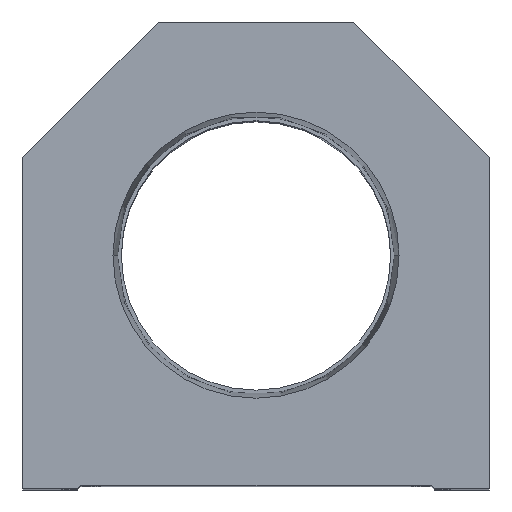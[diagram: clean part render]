
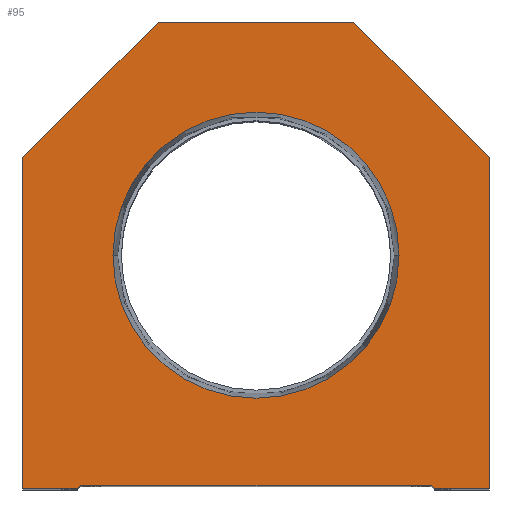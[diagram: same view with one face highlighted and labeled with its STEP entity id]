
A CAD part, top view. The second image highlights one B-rep face of the part: STEP entity #95.
In plain terms, the highlighted planar face has unit normal (0, 0, 1).
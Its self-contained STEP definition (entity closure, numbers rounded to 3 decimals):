
#7 = VERTEX_POINT ( 'NONE', #3540 ) ;
#95 = ADVANCED_FACE ( 'NONE', ( #6256, #10197 ), #1280, .T. ) ;
#268 = CARTESIAN_POINT ( 'NONE',  ( -38.1, 54.1, 0. ) ) ;
#287 = CARTESIAN_POINT ( 'NONE',  ( 16., 76.2, 0. ) ) ;
#294 = VECTOR ( 'NONE', #15739, 1000. ) ;
#474 = EDGE_CURVE ( 'NONE', #10220, #6233, #9113, .T. ) ;
#484 = VERTEX_POINT ( 'NONE', #10239 ) ;
#698 = LINE ( 'NONE', #3573, #7650 ) ;
#907 = VERTEX_POINT ( 'NONE', #7659 ) ;
#1144 = ORIENTED_EDGE ( 'NONE', *, *, #11017, .T. ) ;
#1205 = LINE ( 'NONE', #5109, #7613 ) ;
#1280 = PLANE ( 'NONE',  #7372 ) ;
#1493 = CARTESIAN_POINT ( 'NONE',  ( 38.1, 54.1, 0. ) ) ;
#1592 = EDGE_CURVE ( 'NONE', #10402, #7771, #1205, .T. ) ;
#1690 = VECTOR ( 'NONE', #5219, 1000. ) ;
#1714 = ORIENTED_EDGE ( 'NONE', *, *, #1592, .T. ) ;
#1932 = ORIENTED_EDGE ( 'NONE', *, *, #10981, .T. ) ;
#1982 = LINE ( 'NONE', #9539, #4718 ) ;
#2598 = VERTEX_POINT ( 'NONE', #2801 ) ;
#2799 = EDGE_LOOP ( 'NONE', ( #11271, #1932, #6716, #1714, #5527, #15427, #6569, #1144, #6384, #14672 ) ) ;
#2801 = CARTESIAN_POINT ( 'NONE',  ( 38.1, 0., 0. ) ) ;
#3036 = DIRECTION ( 'NONE',  ( 1., 0., 0. ) ) ;
#3049 = CARTESIAN_POINT ( 'NONE',  ( 38.1, 0., 0. ) ) ;
#3194 = EDGE_CURVE ( 'NONE', #12565, #15673, #12524, .T. ) ;
#3489 = VECTOR ( 'NONE', #4265, 1000. ) ;
#3540 = CARTESIAN_POINT ( 'NONE',  ( 23.374, 38.1, 0. ) ) ;
#3573 = CARTESIAN_POINT ( 'NONE',  ( 16., 76.2, 0. ) ) ;
#3608 = DIRECTION ( 'NONE',  ( 1., 0., 0. ) ) ;
#4039 = DIRECTION ( 'NONE',  ( 0.707, 0.707, 0. ) ) ;
#4205 = DIRECTION ( 'NONE',  ( 0., 0., 1. ) ) ;
#4265 = DIRECTION ( 'NONE',  ( -0.707, 0.707, 0. ) ) ;
#4270 = ORIENTED_EDGE ( 'NONE', *, *, #8967, .F. ) ;
#4365 = EDGE_CURVE ( 'NONE', #8679, #14711, #9383, .T. ) ;
#4718 = VECTOR ( 'NONE', #10745, 1000. ) ;
#4846 = LINE ( 'NONE', #9709, #15119 ) ;
#4959 = EDGE_CURVE ( 'NONE', #484, #7, #12194, .T. ) ;
#5084 = AXIS2_PLACEMENT_3D ( 'NONE', #14267, #4205, #3036 ) ;
#5096 = DIRECTION ( 'NONE',  ( 1., 0., 0. ) ) ;
#5109 = CARTESIAN_POINT ( 'NONE',  ( 14.55, 14.55, 0. ) ) ;
#5179 = CARTESIAN_POINT ( 'NONE',  ( -28.6, 0., 0. ) ) ;
#5219 = DIRECTION ( 'NONE',  ( -0.707, -0.707, 0. ) ) ;
#5342 = LINE ( 'NONE', #13168, #12931 ) ;
#5368 = EDGE_LOOP ( 'NONE', ( #4270, #14618 ) ) ;
#5477 = CIRCLE ( 'NONE', #14689, 23.374 ) ;
#5527 = ORIENTED_EDGE ( 'NONE', *, *, #7483, .T. ) ;
#6211 = DIRECTION ( 'NONE',  ( -1., 0., 0. ) ) ;
#6233 = VERTEX_POINT ( 'NONE', #11521 ) ;
#6256 = FACE_BOUND ( 'NONE', #5368, .T. ) ;
#6384 = ORIENTED_EDGE ( 'NONE', *, *, #474, .T. ) ;
#6569 = ORIENTED_EDGE ( 'NONE', *, *, #4365, .T. ) ;
#6581 = CARTESIAN_POINT ( 'NONE',  ( 29.1, 0., 0. ) ) ;
#6625 = VECTOR ( 'NONE', #15613, 1000. ) ;
#6716 = ORIENTED_EDGE ( 'NONE', *, *, #13035, .T. ) ;
#7023 = CARTESIAN_POINT ( 'NONE',  ( 0., 38.1, 0. ) ) ;
#7372 = AXIS2_PLACEMENT_3D ( 'NONE', #11266, #12523, #5096 ) ;
#7483 = EDGE_CURVE ( 'NONE', #7771, #2598, #4846, .T. ) ;
#7588 = CARTESIAN_POINT ( 'NONE',  ( -29.1, 0., 0. ) ) ;
#7613 = VECTOR ( 'NONE', #10124, 1000. ) ;
#7650 = VECTOR ( 'NONE', #6211, 1000. ) ;
#7659 = CARTESIAN_POINT ( 'NONE',  ( -28.6, 0.5, 0. ) ) ;
#7771 = VERTEX_POINT ( 'NONE', #6581 ) ;
#8679 = VERTEX_POINT ( 'NONE', #10636 ) ;
#8967 = EDGE_CURVE ( 'NONE', #7, #484, #5477, .T. ) ;
#9113 = LINE ( 'NONE', #268, #1690 ) ;
#9322 = CARTESIAN_POINT ( 'NONE',  ( -38.1, 0., 0. ) ) ;
#9383 = LINE ( 'NONE', #1493, #3489 ) ;
#9539 = CARTESIAN_POINT ( 'NONE',  ( -28.6, 0.5, 0. ) ) ;
#9709 = CARTESIAN_POINT ( 'NONE',  ( 28.6, 0., 0. ) ) ;
#10124 = DIRECTION ( 'NONE',  ( 0.707, -0.707, 0. ) ) ;
#10197 = FACE_OUTER_BOUND ( 'NONE', #2799, .T. ) ;
#10220 = VERTEX_POINT ( 'NONE', #13022 ) ;
#10239 = CARTESIAN_POINT ( 'NONE',  ( -23.374, 38.1, 0. ) ) ;
#10402 = VERTEX_POINT ( 'NONE', #10434 ) ;
#10434 = CARTESIAN_POINT ( 'NONE',  ( 28.6, 0.5, 0. ) ) ;
#10617 = LINE ( 'NONE', #3049, #294 ) ;
#10636 = CARTESIAN_POINT ( 'NONE',  ( 38.1, 54.1, 0. ) ) ;
#10745 = DIRECTION ( 'NONE',  ( 1., 0., 0. ) ) ;
#10883 = DIRECTION ( 'NONE',  ( 0., 0., 1. ) ) ;
#10981 = EDGE_CURVE ( 'NONE', #15673, #907, #5342, .T. ) ;
#11017 = EDGE_CURVE ( 'NONE', #14711, #10220, #698, .T. ) ;
#11266 = CARTESIAN_POINT ( 'NONE',  ( 0., 0., 0. ) ) ;
#11271 = ORIENTED_EDGE ( 'NONE', *, *, #3194, .T. ) ;
#11398 = EDGE_CURVE ( 'NONE', #6233, #12565, #13295, .T. ) ;
#11521 = CARTESIAN_POINT ( 'NONE',  ( -38.1, 54.1, 0. ) ) ;
#12194 = CIRCLE ( 'NONE', #5084, 23.374 ) ;
#12523 = DIRECTION ( 'NONE',  ( 0., 0., 1. ) ) ;
#12524 = LINE ( 'NONE', #5179, #16089 ) ;
#12565 = VERTEX_POINT ( 'NONE', #9322 ) ;
#12931 = VECTOR ( 'NONE', #4039, 1000. ) ;
#13022 = CARTESIAN_POINT ( 'NONE',  ( -16., 76.2, 0. ) ) ;
#13035 = EDGE_CURVE ( 'NONE', #907, #10402, #1982, .T. ) ;
#13168 = CARTESIAN_POINT ( 'NONE',  ( -14.55, 14.55, 0. ) ) ;
#13295 = LINE ( 'NONE', #15761, #6625 ) ;
#13612 = DIRECTION ( 'NONE',  ( 1., 0., 0. ) ) ;
#14267 = CARTESIAN_POINT ( 'NONE',  ( 0., 38.1, 0. ) ) ;
#14618 = ORIENTED_EDGE ( 'NONE', *, *, #4959, .F. ) ;
#14672 = ORIENTED_EDGE ( 'NONE', *, *, #11398, .T. ) ;
#14689 = AXIS2_PLACEMENT_3D ( 'NONE', #7023, #10883, #13612 ) ;
#14711 = VERTEX_POINT ( 'NONE', #287 ) ;
#15044 = DIRECTION ( 'NONE',  ( 1., 0., 0. ) ) ;
#15119 = VECTOR ( 'NONE', #3608, 1000. ) ;
#15427 = ORIENTED_EDGE ( 'NONE', *, *, #15693, .T. ) ;
#15613 = DIRECTION ( 'NONE',  ( 0., -1., 0. ) ) ;
#15673 = VERTEX_POINT ( 'NONE', #7588 ) ;
#15693 = EDGE_CURVE ( 'NONE', #2598, #8679, #10617, .T. ) ;
#15739 = DIRECTION ( 'NONE',  ( 0., 1., 0. ) ) ;
#15761 = CARTESIAN_POINT ( 'NONE',  ( -38.1, 0., 0. ) ) ;
#16089 = VECTOR ( 'NONE', #15044, 1000. ) ;
